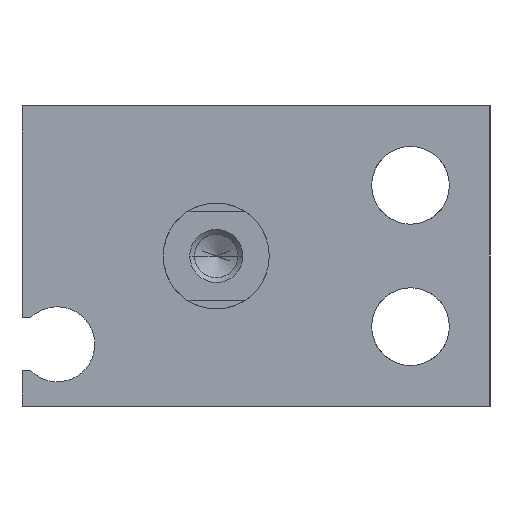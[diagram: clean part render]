
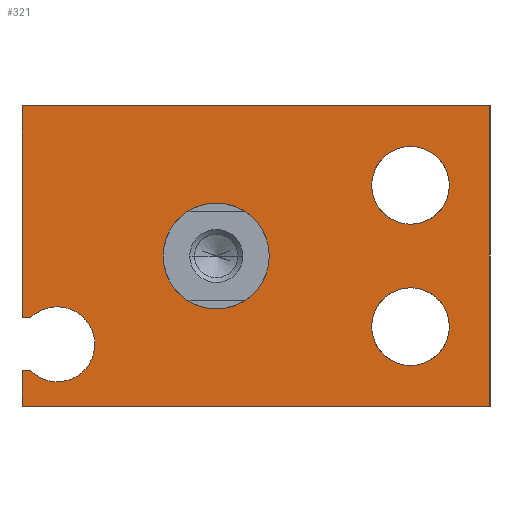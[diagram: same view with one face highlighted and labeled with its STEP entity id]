
A CAD part, left-side view. The second image highlights one B-rep face of the part: STEP entity #321.
In plain terms, the highlighted planar face has unit normal (-1, 0, 0).
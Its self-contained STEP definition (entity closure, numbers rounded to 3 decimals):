
#9 = EDGE_LOOP ( 'NONE', ( #883, #758 ) ) ;
#37 = VERTEX_POINT ( 'NONE', #2151 ) ;
#74 = DIRECTION ( 'NONE',  ( 0., 0., 1. ) ) ;
#77 = DIRECTION ( 'NONE',  ( 0., 0., 1. ) ) ;
#168 = DIRECTION ( 'NONE',  ( 0., 0., -1. ) ) ;
#180 = AXIS2_PLACEMENT_3D ( 'NONE', #2733, #1049, #2968 ) ;
#198 = LINE ( 'NONE', #2122, #1403 ) ;
#252 = CARTESIAN_POINT ( 'NONE',  ( 0., 0., 0. ) ) ;
#271 = ORIENTED_EDGE ( 'NONE', *, *, #1236, .T. ) ;
#277 = EDGE_LOOP ( 'NONE', ( #2826, #293 ) ) ;
#293 = ORIENTED_EDGE ( 'NONE', *, *, #1205, .F. ) ;
#321 = ADVANCED_FACE ( 'NONE', ( #1887, #2853, #1611, #1623 ), #3075, .T. ) ;
#362 = VERTEX_POINT ( 'NONE', #1388 ) ;
#385 = DIRECTION ( 'NONE',  ( 0., -1., 0. ) ) ;
#386 = EDGE_CURVE ( 'NONE', #2742, #2707, #845, .T. ) ;
#425 = CARTESIAN_POINT ( 'NONE',  ( 0., 9., -5. ) ) ;
#445 = AXIS2_PLACEMENT_3D ( 'NONE', #1874, #1156, #1637 ) ;
#450 = CARTESIAN_POINT ( 'NONE',  ( 0., 0., 3. ) ) ;
#455 = LINE ( 'NONE', #648, #1008 ) ;
#461 = LINE ( 'NONE', #2391, #1201 ) ;
#484 = EDGE_CURVE ( 'NONE', #1608, #2586, #198, .T. ) ;
#517 = CARTESIAN_POINT ( 'NONE',  ( 0., -11., 1.8 ) ) ;
#518 = VERTEX_POINT ( 'NONE', #450 ) ;
#525 = CIRCLE ( 'NONE', #180, 2.2 ) ;
#549 = CARTESIAN_POINT ( 'NONE',  ( 0., 9., -5. ) ) ;
#565 = CARTESIAN_POINT ( 'NONE',  ( 0., 9., -7.125 ) ) ;
#571 = AXIS2_PLACEMENT_3D ( 'NONE', #549, #2930, #74 ) ;
#620 = EDGE_CURVE ( 'NONE', #3056, #37, #1965, .T. ) ;
#629 = DIRECTION ( 'NONE',  ( 0., 0., 1. ) ) ;
#648 = CARTESIAN_POINT ( 'NONE',  ( 0., -15.5, -8.5 ) ) ;
#690 = DIRECTION ( 'NONE',  ( 0., 0., 1. ) ) ;
#691 = VECTOR ( 'NONE', #385, 1000. ) ;
#702 = DIRECTION ( 'NONE',  ( 0., 1., 0. ) ) ;
#735 = VERTEX_POINT ( 'NONE', #565 ) ;
#736 = CARTESIAN_POINT ( 'NONE',  ( 0., 11., -6.5 ) ) ;
#751 = ORIENTED_EDGE ( 'NONE', *, *, #620, .T. ) ;
#758 = ORIENTED_EDGE ( 'NONE', *, *, #1681, .T. ) ;
#769 = CIRCLE ( 'NONE', #571, 2.125 ) ;
#793 = VERTEX_POINT ( 'NONE', #1055 ) ;
#832 = AXIS2_PLACEMENT_3D ( 'NONE', #3122, #2415, #2691 ) ;
#845 = CIRCLE ( 'NONE', #445, 2.125 ) ;
#867 = CARTESIAN_POINT ( 'NONE',  ( 0., -11., 4. ) ) ;
#883 = ORIENTED_EDGE ( 'NONE', *, *, #3007, .T. ) ;
#884 = DIRECTION ( 'NONE',  ( 0., 0., 1. ) ) ;
#948 = VECTOR ( 'NONE', #3019, 1000. ) ;
#963 = ORIENTED_EDGE ( 'NONE', *, *, #484, .T. ) ;
#1008 = VECTOR ( 'NONE', #690, 1000. ) ;
#1039 = AXIS2_PLACEMENT_3D ( 'NONE', #1487, #2450, #77 ) ;
#1049 = DIRECTION ( 'NONE',  ( -1., 0., 0. ) ) ;
#1055 = CARTESIAN_POINT ( 'NONE',  ( 0., 10.505, -6.5 ) ) ;
#1064 = EDGE_CURVE ( 'NONE', #735, #2742, #769, .T. ) ;
#1124 = DIRECTION ( 'NONE',  ( -1., 0., 0. ) ) ;
#1156 = DIRECTION ( 'NONE',  ( -1., 0., 0. ) ) ;
#1201 = VECTOR ( 'NONE', #1880, 1000. ) ;
#1205 = EDGE_CURVE ( 'NONE', #1581, #362, #2356, .T. ) ;
#1236 = EDGE_CURVE ( 'NONE', #37, #2560, #1382, .T. ) ;
#1250 = AXIS2_PLACEMENT_3D ( 'NONE', #425, #1124, #884 ) ;
#1258 = EDGE_CURVE ( 'NONE', #2586, #2399, #2092, .T. ) ;
#1263 = CIRCLE ( 'NONE', #2210, 2.2 ) ;
#1324 = CARTESIAN_POINT ( 'NONE',  ( 0., 11., -8.5 ) ) ;
#1327 = CARTESIAN_POINT ( 'NONE',  ( 0., -15.5, -8.5 ) ) ;
#1334 = CARTESIAN_POINT ( 'NONE',  ( 0., -15.5, 8.5 ) ) ;
#1342 = CARTESIAN_POINT ( 'NONE',  ( 0., 11., -3.5 ) ) ;
#1355 = EDGE_CURVE ( 'NONE', #2560, #2707, #461, .T. ) ;
#1382 = LINE ( 'NONE', #2059, #948 ) ;
#1388 = CARTESIAN_POINT ( 'NONE',  ( 0., -11., 6.2 ) ) ;
#1403 = VECTOR ( 'NONE', #168, 1000. ) ;
#1431 = LINE ( 'NONE', #2397, #1548 ) ;
#1444 = CIRCLE ( 'NONE', #1039, 2.125 ) ;
#1484 = VECTOR ( 'NONE', #702, 1000. ) ;
#1487 = CARTESIAN_POINT ( 'NONE',  ( 0., 9., -5. ) ) ;
#1521 = CARTESIAN_POINT ( 'NONE',  ( 0., -11., -6.2 ) ) ;
#1548 = VECTOR ( 'NONE', #2870, 1000. ) ;
#1575 = VERTEX_POINT ( 'NONE', #1933 ) ;
#1581 = VERTEX_POINT ( 'NONE', #517 ) ;
#1608 = VERTEX_POINT ( 'NONE', #736 ) ;
#1611 = FACE_BOUND ( 'NONE', #1886, .T. ) ;
#1622 = ORIENTED_EDGE ( 'NONE', *, *, #2125, .T. ) ;
#1623 = FACE_BOUND ( 'NONE', #277, .T. ) ;
#1637 = DIRECTION ( 'NONE',  ( 0., 0., 1. ) ) ;
#1641 = EDGE_CURVE ( 'NONE', #3032, #2382, #1945, .T. ) ;
#1681 = EDGE_CURVE ( 'NONE', #518, #1575, #3047, .T. ) ;
#1689 = DIRECTION ( 'NONE',  ( 0., 0., 1. ) ) ;
#1717 = ORIENTED_EDGE ( 'NONE', *, *, #2696, .F. ) ;
#1794 = ORIENTED_EDGE ( 'NONE', *, *, #1641, .F. ) ;
#1797 = CIRCLE ( 'NONE', #2697, 3. ) ;
#1831 = DIRECTION ( 'NONE',  ( -1., 0., 0. ) ) ;
#1837 = DIRECTION ( 'NONE',  ( -1., 0., 0. ) ) ;
#1874 = CARTESIAN_POINT ( 'NONE',  ( 0., 9., -5. ) ) ;
#1880 = DIRECTION ( 'NONE',  ( 0., -1., 0. ) ) ;
#1886 = EDGE_LOOP ( 'NONE', ( #1794, #2045 ) ) ;
#1887 = FACE_OUTER_BOUND ( 'NONE', #2157, .T. ) ;
#1908 = EDGE_CURVE ( 'NONE', #2382, #3032, #525, .T. ) ;
#1933 = CARTESIAN_POINT ( 'NONE',  ( 0., 0., -3. ) ) ;
#1945 = CIRCLE ( 'NONE', #2815, 2.2 ) ;
#1951 = DIRECTION ( 'NONE',  ( 0., 0., -1. ) ) ;
#1965 = LINE ( 'NONE', #2138, #1484 ) ;
#1981 = CARTESIAN_POINT ( 'NONE',  ( 0., -11., -1.8 ) ) ;
#2045 = ORIENTED_EDGE ( 'NONE', *, *, #1908, .F. ) ;
#2059 = CARTESIAN_POINT ( 'NONE',  ( 0., 11., 8.5 ) ) ;
#2075 = DIRECTION ( 'NONE',  ( 0., 0., 1. ) ) ;
#2092 = LINE ( 'NONE', #1324, #691 ) ;
#2122 = CARTESIAN_POINT ( 'NONE',  ( 0., 11., -6.5 ) ) ;
#2125 = EDGE_CURVE ( 'NONE', #2399, #3056, #455, .T. ) ;
#2128 = ORIENTED_EDGE ( 'NONE', *, *, #386, .F. ) ;
#2138 = CARTESIAN_POINT ( 'NONE',  ( 0., -15.5, 8.5 ) ) ;
#2151 = CARTESIAN_POINT ( 'NONE',  ( 0., 11., 8.5 ) ) ;
#2157 = EDGE_LOOP ( 'NONE', ( #2266, #1622, #751, #271, #2276, #2128, #2756, #1717, #2939, #963 ) ) ;
#2210 = AXIS2_PLACEMENT_3D ( 'NONE', #867, #1831, #629 ) ;
#2216 = EDGE_CURVE ( 'NONE', #362, #1581, #1263, .T. ) ;
#2266 = ORIENTED_EDGE ( 'NONE', *, *, #1258, .T. ) ;
#2276 = ORIENTED_EDGE ( 'NONE', *, *, #1355, .T. ) ;
#2356 = CIRCLE ( 'NONE', #2453, 2.2 ) ;
#2359 = EDGE_CURVE ( 'NONE', #793, #1608, #1431, .T. ) ;
#2363 = CARTESIAN_POINT ( 'NONE',  ( 0., 11., -8.5 ) ) ;
#2382 = VERTEX_POINT ( 'NONE', #1521 ) ;
#2391 = CARTESIAN_POINT ( 'NONE',  ( 0., 11., -3.5 ) ) ;
#2397 = CARTESIAN_POINT ( 'NONE',  ( 0., 10.505, -6.5 ) ) ;
#2399 = VERTEX_POINT ( 'NONE', #1327 ) ;
#2400 = CARTESIAN_POINT ( 'NONE',  ( 0., -11., -4. ) ) ;
#2415 = DIRECTION ( 'NONE',  ( 1., 0., 0. ) ) ;
#2450 = DIRECTION ( 'NONE',  ( -1., 0., 0. ) ) ;
#2453 = AXIS2_PLACEMENT_3D ( 'NONE', #2787, #1837, #2075 ) ;
#2497 = CARTESIAN_POINT ( 'NONE',  ( 0., 9., -2.875 ) ) ;
#2560 = VERTEX_POINT ( 'NONE', #1342 ) ;
#2586 = VERTEX_POINT ( 'NONE', #2363 ) ;
#2666 = DIRECTION ( 'NONE',  ( -1., 0., 0. ) ) ;
#2691 = DIRECTION ( 'NONE',  ( 0., 0., -1. ) ) ;
#2696 = EDGE_CURVE ( 'NONE', #793, #735, #1444, .T. ) ;
#2697 = AXIS2_PLACEMENT_3D ( 'NONE', #252, #2902, #1951 ) ;
#2707 = VERTEX_POINT ( 'NONE', #2949 ) ;
#2733 = CARTESIAN_POINT ( 'NONE',  ( 0., -11., -4. ) ) ;
#2742 = VERTEX_POINT ( 'NONE', #2497 ) ;
#2756 = ORIENTED_EDGE ( 'NONE', *, *, #1064, .F. ) ;
#2787 = CARTESIAN_POINT ( 'NONE',  ( 0., -11., 4. ) ) ;
#2815 = AXIS2_PLACEMENT_3D ( 'NONE', #2400, #2666, #1689 ) ;
#2826 = ORIENTED_EDGE ( 'NONE', *, *, #2216, .F. ) ;
#2853 = FACE_BOUND ( 'NONE', #9, .T. ) ;
#2870 = DIRECTION ( 'NONE',  ( 0., 1., 0. ) ) ;
#2902 = DIRECTION ( 'NONE',  ( 1., 0., 0. ) ) ;
#2930 = DIRECTION ( 'NONE',  ( -1., 0., 0. ) ) ;
#2939 = ORIENTED_EDGE ( 'NONE', *, *, #2359, .T. ) ;
#2949 = CARTESIAN_POINT ( 'NONE',  ( 0., 10.505, -3.5 ) ) ;
#2968 = DIRECTION ( 'NONE',  ( 0., 0., 1. ) ) ;
#3007 = EDGE_CURVE ( 'NONE', #1575, #518, #1797, .T. ) ;
#3019 = DIRECTION ( 'NONE',  ( 0., 0., -1. ) ) ;
#3032 = VERTEX_POINT ( 'NONE', #1981 ) ;
#3047 = CIRCLE ( 'NONE', #832, 3. ) ;
#3056 = VERTEX_POINT ( 'NONE', #1334 ) ;
#3075 = PLANE ( 'NONE',  #1250 ) ;
#3122 = CARTESIAN_POINT ( 'NONE',  ( 0., 0., 0. ) ) ;
